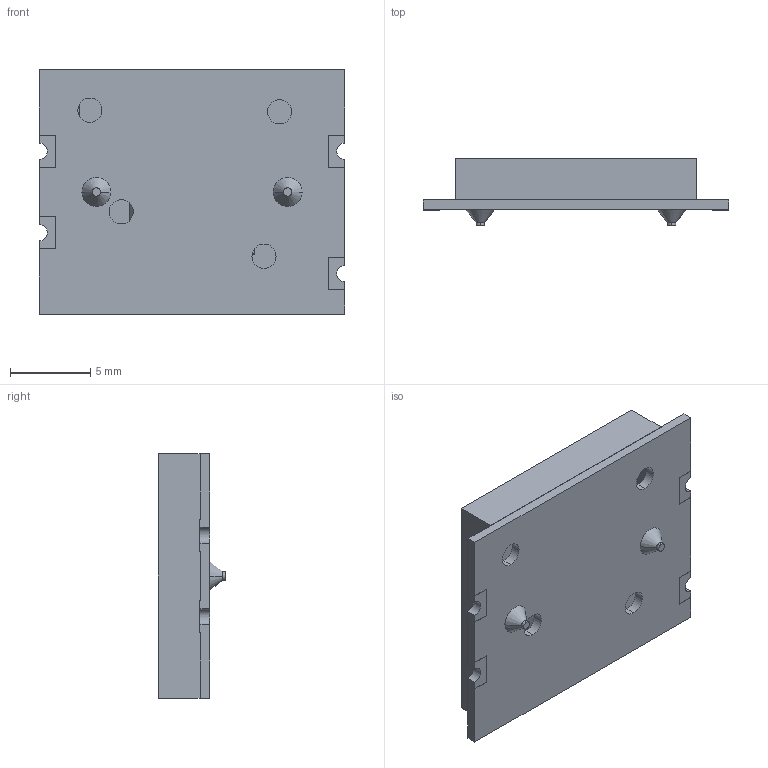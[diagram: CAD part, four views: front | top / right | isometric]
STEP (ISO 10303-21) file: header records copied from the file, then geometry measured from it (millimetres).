
FILE_DESCRIPTION (( 'STEP AP203' ), '1' );
FILE_NAME ('CSM SERIES.STEP', '2017-09-08T20:49:32', ( '' ), ( '' ), 'SwSTEP 2.0', 'SolidWorks 2016', '' );
FILE_SCHEMA (( 'CONFIG_CONTROL_DESIGN' ));
Length unit declared in the file: inch
Products named in the file (5): CSM SERIES; CSDV-S12053_1; CSDV-S12053_2; CSDV-S12053_3; CSDV-S12053_4
Assembly tree (4 placements, depth 2):
  CSM SERIES
    CSDV-S12053_1
    CSDV-S12053_2
    CSDV-S12053_3
    CSDV-S12053_4
Bounding box: 19 x 4.2 x 15.2 mm (x, y, z)
Volume: 515.7 mm3; surface area: 1874.1 mm2
Topology: 4 solids, 4 shells, 126 faces, 320 edges, 212 vertices
Faces by surface type: plane 94, cylinder 28, cone 4
Entity records: 4333 total; most frequent: CARTESIAN_POINT 677, ORIENTED_EDGE 640, DIRECTION 638, EDGE_CURVE 320, LINE 260, VECTOR 260, VERTEX_POINT 212, AXIS2_PLACEMENT_3D 189
